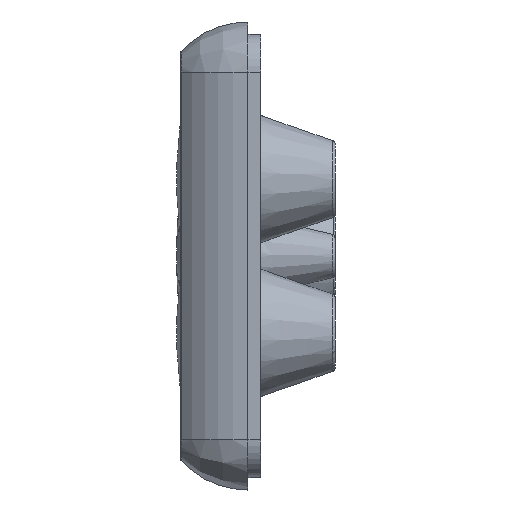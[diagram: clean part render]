
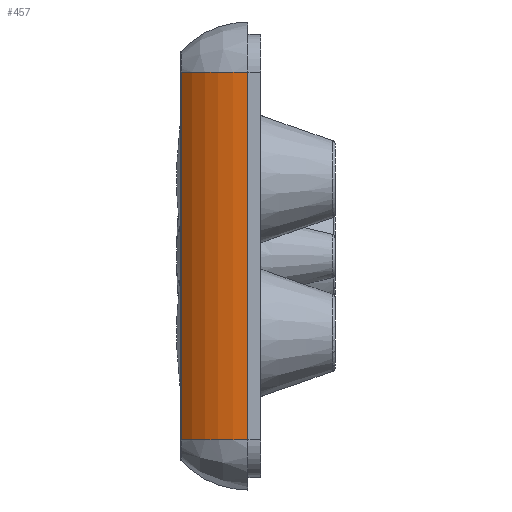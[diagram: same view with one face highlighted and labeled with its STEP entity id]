
A CAD part, left-side view. The second image highlights one B-rep face of the part: STEP entity #457.
In plain terms, the highlighted cylindrical face has radius 10.893 mm (diameter 21.786 mm), a partial arc.
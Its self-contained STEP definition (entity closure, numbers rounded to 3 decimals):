
#457 = ADVANCED_FACE( '', ( #1017 ), #1018, .T. );
#1017 = FACE_OUTER_BOUND( '', #1664, .T. );
#1018 = CYLINDRICAL_SURFACE( '', #1665, 10.893 );
#1664 = EDGE_LOOP( '', ( #2778, #2779, #2780, #2781 ) );
#1665 = AXIS2_PLACEMENT_3D( '', #2782, #2783, #2784 );
#2778 = ORIENTED_EDGE( '', *, *, #3306, .T. );
#2779 = ORIENTED_EDGE( '', *, *, #3232, .T. );
#2780 = ORIENTED_EDGE( '', *, *, #3169, .F. );
#2781 = ORIENTED_EDGE( '', *, *, #3272, .T. );
#2782 = CARTESIAN_POINT( '', ( -66.107, 0., 22. ) );
#2783 = DIRECTION( '', ( 0., 0., 1. ) );
#2784 = DIRECTION( '', ( -1., 0., 0. ) );
#3169 = EDGE_CURVE( '', #3586, #3758, #3759, .T. );
#3232 = EDGE_CURVE( '', #3844, #3758, #3845, .T. );
#3272 = EDGE_CURVE( '', #3586, #3897, #3899, .T. );
#3306 = EDGE_CURVE( '', #3897, #3844, #3936, .T. );
#3586 = VERTEX_POINT( '', #4364 );
#3758 = VERTEX_POINT( '', #4739 );
#3759 = CIRCLE( '', #4740, 10.893 );
#3844 = VERTEX_POINT( '', #4908 );
#3845 = LINE( '', #4909, #4910 );
#3897 = VERTEX_POINT( '', #5000 );
#3899 = LINE( '', #5003, #5004 );
#3936 = CIRCLE( '', #5054, 10.893 );
#4364 = CARTESIAN_POINT( '', ( -73.5, 8., 22. ) );
#4739 = CARTESIAN_POINT( '', ( -77., 0., 22. ) );
#4740 = AXIS2_PLACEMENT_3D( '', #5520, #5521, #5522 );
#4908 = CARTESIAN_POINT( '', ( -77., 0., -22. ) );
#4909 = CARTESIAN_POINT( '', ( -77., 0., -22. ) );
#4910 = VECTOR( '', #5602, 1000. );
#5000 = CARTESIAN_POINT( '', ( -73.5, 8., -22. ) );
#5003 = CARTESIAN_POINT( '', ( -73.5, 8., 22. ) );
#5004 = VECTOR( '', #5673, 1000. );
#5054 = AXIS2_PLACEMENT_3D( '', #5695, #5696, #5697 );
#5520 = CARTESIAN_POINT( '', ( -66.107, 0., 22. ) );
#5521 = DIRECTION( '', ( 0., 0., 1. ) );
#5522 = DIRECTION( '', ( 1., 0., 0. ) );
#5602 = DIRECTION( '', ( 0., 0., 1. ) );
#5673 = DIRECTION( '', ( 0., 0., -1. ) );
#5695 = CARTESIAN_POINT( '', ( -66.107, 0., -22. ) );
#5696 = DIRECTION( '', ( 0., 0., 1. ) );
#5697 = DIRECTION( '', ( 1., 0., 0. ) );
